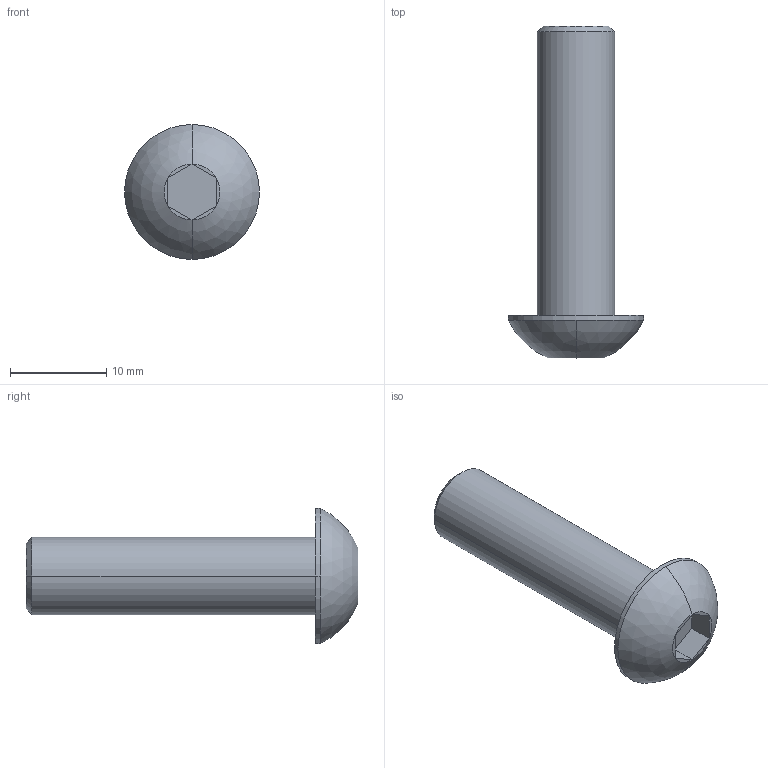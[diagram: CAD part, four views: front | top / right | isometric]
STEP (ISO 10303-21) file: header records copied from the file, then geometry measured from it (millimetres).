
FILE_DESCRIPTION((''),'2;1');
FILE_NAME('VTBEI0830','2002-12-27T',('Lipro doo'),('Lipro d.o.o.'),'PRO/ENGINEER BY PARAMETRIC TECHNOLOGY CORPORATION, 2001150','PRO/ENGINEER BY PARAMETRIC TECHNOLOGY CORPORATION, 2001150','');
FILE_SCHEMA(('CONFIG_CONTROL_DESIGN'));
Length unit declared in the file: millimetre
Products named in the file (1): VTBEI0830
Bounding box: 14 x 34.4 x 14 mm (x, y, z)
Volume: 1906.6 mm3; surface area: 1822 mm2
Topology: 1 solids, 2 shells, 25 faces, 50 edges, 28 vertices
Faces by surface type: plane 15, cylinder 6, cone 2, sphere 2
Entity records: 684 total; most frequent: DIRECTION 126, CARTESIAN_POINT 104, ORIENTED_EDGE 96, AXIS2_PLACEMENT_3D 50, EDGE_CURVE 50, VERTEX_POINT 28, VECTOR 26, LINE 26
